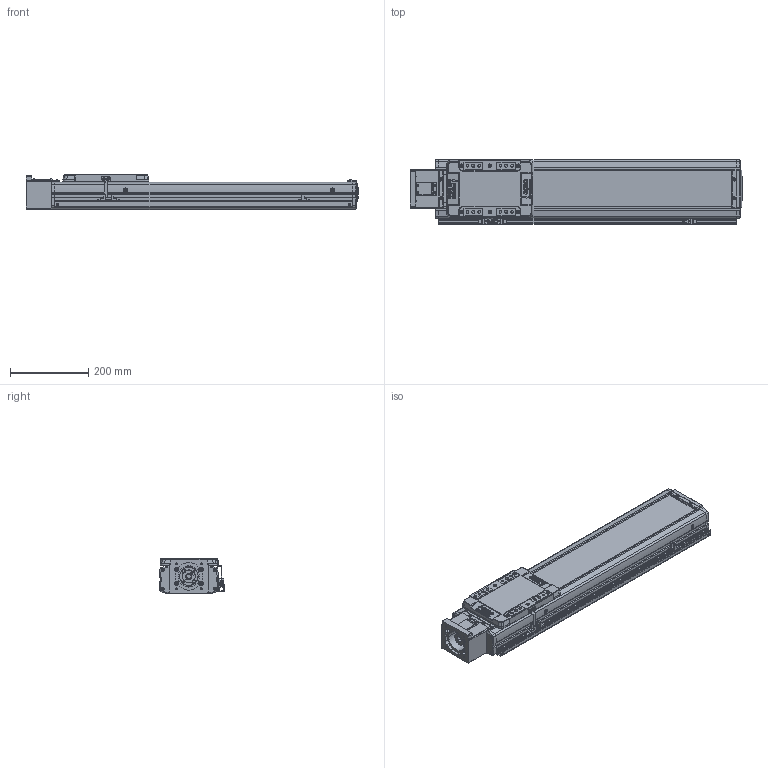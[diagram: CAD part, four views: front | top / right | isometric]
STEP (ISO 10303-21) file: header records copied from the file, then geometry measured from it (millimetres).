
FILE_DESCRIPTION(('STEP AP214'),'1');
FILE_NAME('Z:/Web/3D/SAN150/2013.04 (STP.)/SAN150ㅁㅁ-500S+3SR.stp','2013-05-07T11:25:07',(' '),(' '),'Spatial InterOp 3D',' ',' ');
FILE_SCHEMA(('automotive_design'));
Length unit declared in the file: millimetre
Products named in the file (93): SLBL-SAN150; SLCV-SAN150; FHCS M4.0 x 8.0; BHCS M4.0 x 10.0; SFX-SAN150; RRCV-SAN150; FRBL-SAN150; Spacer; RN15; FRCV-SAN150; Screw 20; BASE-SAN150-000L ; SUS COVER; 스크루 : Round - M5.0 x 6.0; BHCS M3.0 x 6.0; SSFX-SAN65; CPLCV-SAN65; SDWA47C(2); SDWA47C(3-1); SDWA47C(3); SDWA47C(1); SDWA47C(4); SDWA47C(5); MTHZ-SAN150-80; M3.0 x 6.0; SRL-16x17-360L; SGD-SAN150; EE-SX674; SBK-SX674-352; 스크루 : Round - M3.0 x 6.0
Bounding box: 849 x 166 x 90 mm (x, y, z)
Volume: 5045884.3 mm3; surface area: 1044938.2 mm2
Topology: 93 solids, 93 shells, 3348 faces, 8705 edges, 5639 vertices
Faces by surface type: plane 1565, cylinder 1265, cone 397, sphere 76, bspline 29, torus 16
Entity records: 134740 total; most frequent: CARTESIAN_POINT 21471, DIRECTION 18823, ORIENTED_EDGE 17186, EDGE_CURVE 8593, AXIS2_PLACEMENT_3D 6970, VERTEX_POINT 5639, LINE 4883, VECTOR 4883
